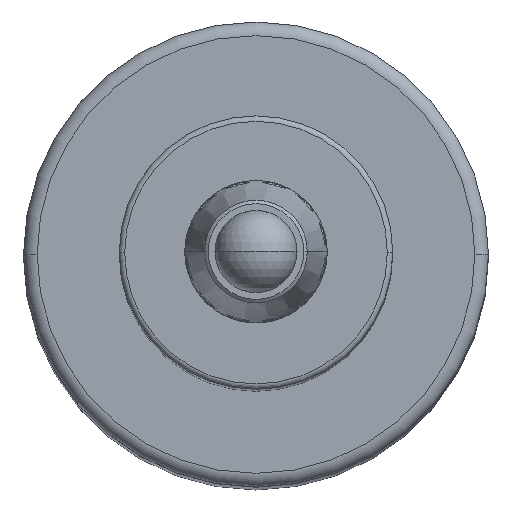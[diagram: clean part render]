
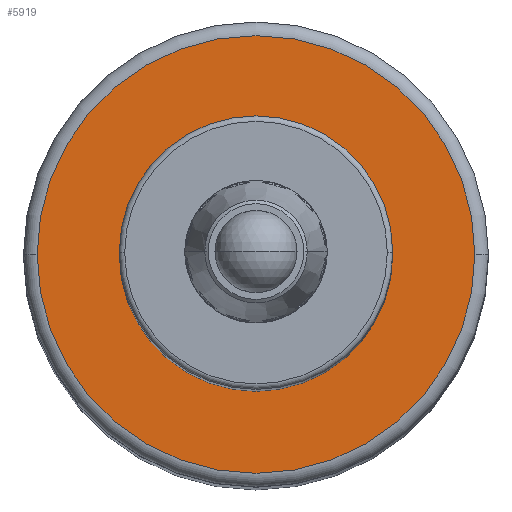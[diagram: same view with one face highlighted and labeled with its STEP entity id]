
A CAD part, top view. The second image highlights one B-rep face of the part: STEP entity #5919.
In plain terms, the highlighted planar face has unit normal (0, 0, 1).
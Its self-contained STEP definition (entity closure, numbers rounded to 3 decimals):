
#181 = DIRECTION ( 'NONE',  ( 0., 0., 1. ) ) ;
#479 = AXIS2_PLACEMENT_3D ( 'NONE', #9693, #11433, #11374 ) ;
#2967 = CIRCLE ( 'NONE', #4897, 8. ) ;
#3844 = VERTEX_POINT ( 'NONE', #3872 ) ;
#3872 = CARTESIAN_POINT ( 'NONE',  ( 39., 425., 140.5 ) ) ;
#4897 = AXIS2_PLACEMENT_3D ( 'NONE', #6138, #11842, #10051 ) ;
#5286 = ORIENTED_EDGE ( 'NONE', *, *, #5589, .T. ) ;
#5589 = EDGE_CURVE ( 'NONE', #3844, #10901, #2967, .T. ) ;
#5919 = ADVANCED_FACE ( 'NONE', ( #6620 ), #10058, .T. ) ;
#6138 = CARTESIAN_POINT ( 'NONE',  ( 31., 425., 140.5 ) ) ;
#6236 = CIRCLE ( 'NONE', #479, 8. ) ;
#6513 = CARTESIAN_POINT ( 'NONE',  ( 23., 425., 140.5 ) ) ;
#6618 = AXIS2_PLACEMENT_3D ( 'NONE', #7283, #181, #8177 ) ;
#6620 = FACE_OUTER_BOUND ( 'NONE', #7029, .T. ) ;
#7029 = EDGE_LOOP ( 'NONE', ( #5286, #10295 ) ) ;
#7046 = EDGE_CURVE ( 'NONE', #10901, #3844, #6236, .T. ) ;
#7283 = CARTESIAN_POINT ( 'NONE',  ( 31., 425., 140.5 ) ) ;
#8177 = DIRECTION ( 'NONE',  ( 1., 0., 0. ) ) ;
#9693 = CARTESIAN_POINT ( 'NONE',  ( 31., 425., 140.5 ) ) ;
#10051 = DIRECTION ( 'NONE',  ( 1., 0., 0. ) ) ;
#10058 = PLANE ( 'NONE',  #6618 ) ;
#10295 = ORIENTED_EDGE ( 'NONE', *, *, #7046, .T. ) ;
#10901 = VERTEX_POINT ( 'NONE', #6513 ) ;
#11374 = DIRECTION ( 'NONE',  ( 1., 0., 0. ) ) ;
#11433 = DIRECTION ( 'NONE',  ( 0., 0., 1. ) ) ;
#11842 = DIRECTION ( 'NONE',  ( 0., 0., 1. ) ) ;
